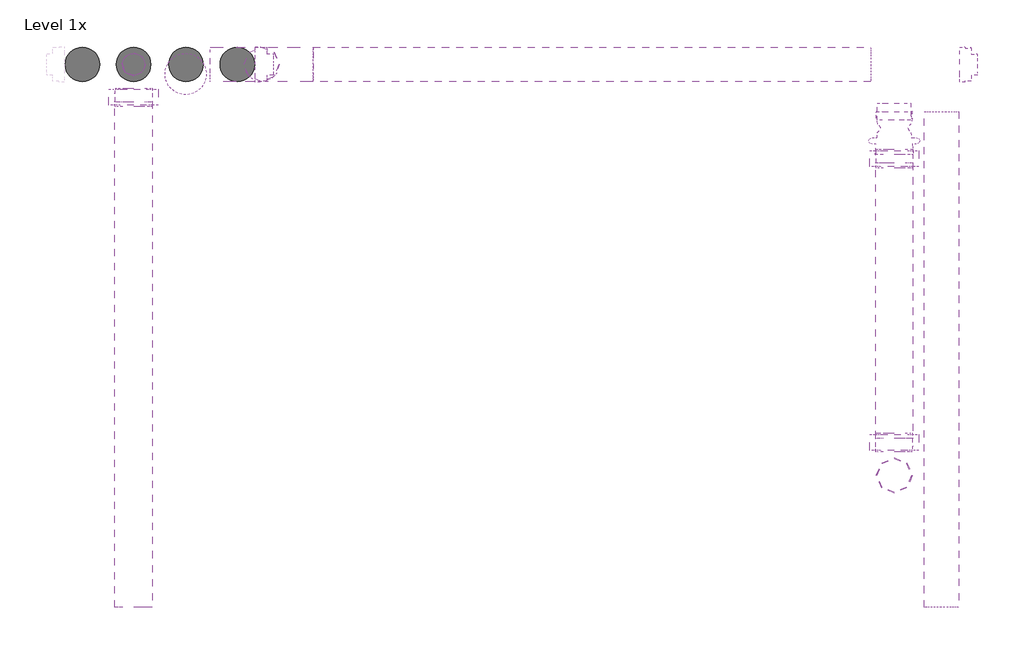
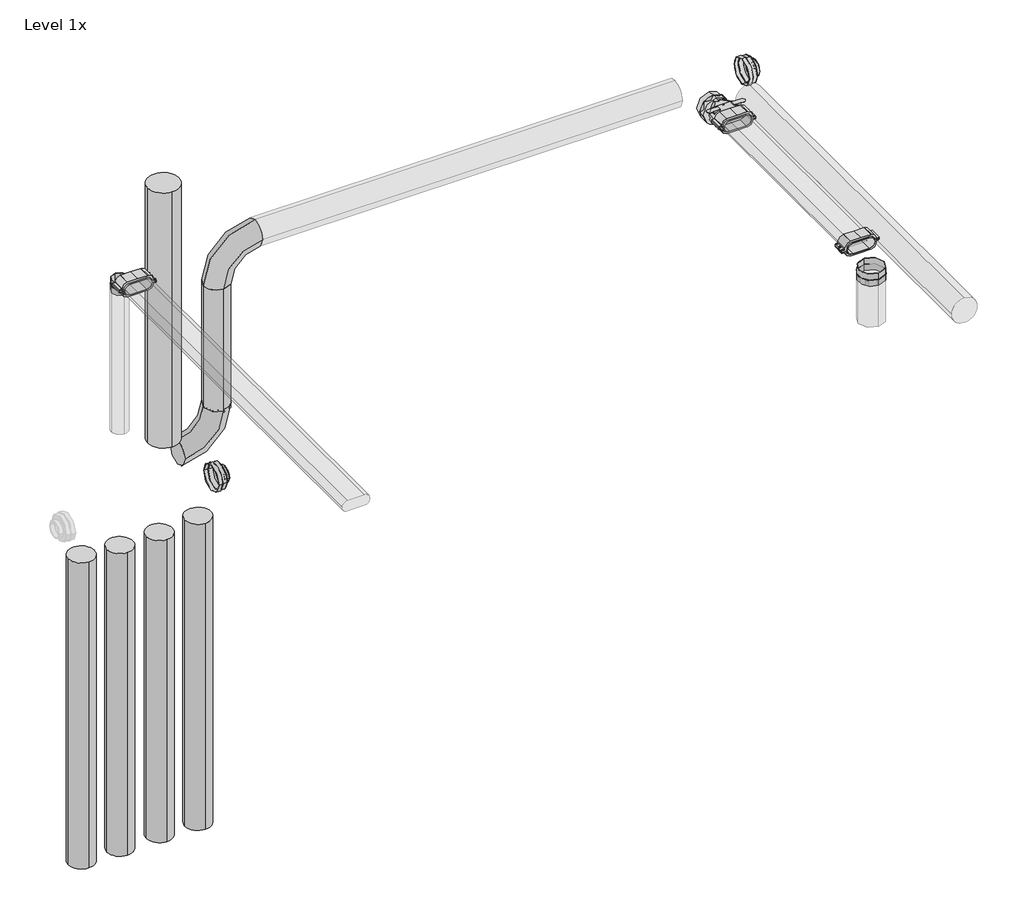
# One storey, part 2 of 7: 12 duct segments, 11 duct fittings, 6 dampers.
"""IFC4 building model written with IfcOpenShell, lengths in millimetres."""

from ifc_helpers import new_model, si_unit, point, frame, frame_2d, origin, place, context, project, spatial, polyline, circle_curve, trimmed, segment, composite_curve, outline, extrude, transform, mapped, element, save
from components import damper_135x55_quick_bracket_1c072f0f, duct_fitting_125_ba9f99c0, duct_fitting_125_ce2bcf2a, duct_fitting_135x55_flat_15a27078, duct_fitting_80_1f0880ae, duct_fitting_80_125_7c03a684, m_round_elbow_1_5_d_eb77d9a7

model = new_model("IFC4")

# Units and contexts
model_context = context("Model", 3, world=origin())
ifc_project = project(units=[si_unit("LENGTHUNIT", "METRE", prefix="MILLI")], contexts=[model_context])

# Site, building, storey
site = spatial("IfcSite", under=ifc_project)
building = spatial("IfcBuilding", under=site)
storey = spatial("IfcBuildingStorey", under=building, Name="Level 1x", Elevation=0.0)

# Dampers
placement = place(None, origin())
damper_135x55_quick_bracket_shape = damper_135x55_quick_bracket_1c072f0f(model_context)
element("IfcDamper", 1, ObjectType="Renson_Easyflex_Quick_Bracket_S : 135x55 Quick Bracket", at=placement, inside=storey, context=model_context, shape_type="MappedRepresentation", body=[
    mapped(damper_135x55_quick_bracket_shape, transform((4838.2653415, 2974.6185118, 2660.325), x_axis=(1.0, 0.0, 0.0), y_axis=(0.0, 1.0, 0.0), z_axis=(0.0, 0.0, 1.0))),
])
element("IfcDamper", 2, ObjectType="Renson_Easyflex_Quick_Bracket_S : 135x55 Quick Bracket", at=placement, inside=storey, context=model_context, shape_type="MappedRepresentation", body=[
    mapped(damper_135x55_quick_bracket_shape, transform((4838.2653415, 2974.6185118, 2599.925), x_axis=(-1.0, 0.0, 0.0), y_axis=(0.0, 1.0, 0.0), z_axis=(0.0, 0.0, -1.0))),
])
element("IfcDamper", 3, ObjectType="VE_Bracket_MEPcontent_Renson_Easyflex_Quick_BE-EN_CP Shared : 135x55 Quick Bracket", at=placement, inside=storey, context=model_context, shape_type="MappedRepresentation", body=[
    mapped(damper_135x55_quick_bracket_shape, transform((2077.9659568, 3197.2435118, 2658.45), x_axis=(1.0, 0.0, 0.0), y_axis=(0.0, 1.0, 0.0), z_axis=(0.0, 0.0, 1.0))),
])
element("IfcDamper", 4, ObjectType="VE_Bracket_MEPcontent_Renson_Easyflex_Quick_BE-EN_CP Shared : 135x55 Quick Bracket", at=placement, inside=storey, context=model_context, shape_type="MappedRepresentation", body=[
    mapped(damper_135x55_quick_bracket_shape, transform((2077.9659568, 3197.2435118, 2598.05), x_axis=(-1.0, 0.0, 0.0), y_axis=(0.0, 1.0, 0.0), z_axis=(0.0, 0.0, -1.0))),
])
element("IfcDamper", 5, ObjectType="VE_Bracket_MEPcontent_Renson_Easyflex_Quick_BE-EN_CP Shared : 135x55 Quick Bracket", at=placement, inside=storey, context=model_context, shape_type="MappedRepresentation", body=[
    mapped(damper_135x55_quick_bracket_shape, transform((4838.2653415, 1944.6185118, 2660.325), x_axis=(-1.0, 0.0, 0.0), y_axis=(0.0, -1.0, 0.0), z_axis=(0.0, 0.0, 1.0))),
])
element("IfcDamper", 6, ObjectType="VE_Bracket_MEPcontent_Renson_Easyflex_Quick_BE-EN_CP Shared : 135x55 Quick Bracket", at=placement, inside=storey, context=model_context, shape_type="MappedRepresentation", body=[
    mapped(damper_135x55_quick_bracket_shape, transform((4838.2653415, 1944.6185118, 2599.925), x_axis=(1.0, 0.0, 0.0), y_axis=(0.0, -1.0, 0.0), z_axis=(0.0, 0.0, -1.0))),
])

# Duct fittings
duct_fitting_125_shape = duct_fitting_125_ba9f99c0(model_context)
element("IfcDuctFitting", 7, ObjectType="Renson_Easyflex_Round_Coupling_S : 125", at=placement, inside=storey, context=model_context, shape_type="MappedRepresentation", body=[
    mapped(duct_fitting_125_shape, transform((4838.2653415, 3145.8685118, 2586.125), x_axis=(0.0, 1.0, 0.0), y_axis=(1.0, 0.0, 0.0), z_axis=(0.0, 0.0, -1.0))),
])
duct_fitting_125_2_shape = duct_fitting_125_ce2bcf2a(model_context)
element("IfcDuctFitting", 8, ObjectType="Renson_Easyflex_Reducer_Oval to Round : 125", at=placement, inside=storey, context=model_context, shape_type="MappedRepresentation", body=[
    mapped(duct_fitting_125_2_shape, transform((4838.2653415, 3039.6185118, 2630.125), x_axis=(0.0, 1.0, 0.0), y_axis=(1.0, 0.0, 0.0), z_axis=(0.0, 0.0, -1.0))),
])
element("IfcDuctFitting", 9, ObjectType="VE_Coupling_Round_MEPcontent_Renson_Easyflex_BE-EN_CP Shared : 125", at=placement, inside=storey, context=model_context, shape_type="MappedRepresentation", body=[
    mapped(duct_fitting_125_shape, transform((4838.2653415, 1824.6185118, 2550.125), x_axis=(0.0, 0.0, -1.000000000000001), y_axis=(-1.0000000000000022, 0.0, 0.0), z_axis=(0.0, 1.000000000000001, 0.0))),
])
duct_fitting_135x55_flat_shape = duct_fitting_135x55_flat_15a27078(model_context)
element("IfcDuctFitting", 10, ObjectType="Renson_Easyflex_Flat_Coupling_Oval_S : 135x55 Flat", at=placement, inside=storey, context=model_context, shape_type="MappedRepresentation", body=[
    mapped(duct_fitting_135x55_flat_shape, transform((4838.2653415, 2974.6185118, 2630.125), x_axis=(0.0, 1.0, 0.0), y_axis=(-1.0, 0.0, 0.0), z_axis=(0.0, 0.0, 1.0))),
])
element("IfcDuctFitting", 11, ObjectType="VE_Coupling_Oval_MEPcontent_Renson_Easyflex_Flat_BE-EN_CP Shared : 135x55 Flat", at=placement, inside=storey, context=model_context, shape_type="MappedRepresentation", body=[
    mapped(duct_fitting_135x55_flat_shape, transform((2077.9659568, 3197.2435118, 2628.25), x_axis=(0.0, 1.0, 0.0), y_axis=(-1.0, 0.0, 0.0), z_axis=(0.0, 0.0, 1.0))),
])
element("IfcDuctFitting", 12, ObjectType="VE_Coupling_Oval_MEPcontent_Renson_Easyflex_Flat_BE-EN_CP Shared : 135x55 Flat", at=placement, inside=storey, context=model_context, shape_type="MappedRepresentation", body=[
    mapped(duct_fitting_135x55_flat_shape, transform((4838.2653415, 1944.6185118, 2630.125), x_axis=(0.0, -1.0, 0.0), y_axis=(1.0, 0.0, 0.0), z_axis=(0.0, 0.0, 1.0))),
])
duct_fitting_80_shape = duct_fitting_80_1f0880ae(model_context)
element("IfcDuctFitting", 13, ObjectType="VE_Coupling_Round_MEPcontent_Renson_Easyflex_BE-EN_CP Shared : 80", at=placement, inside=storey, context=model_context, shape_type="MappedRepresentation", body=[
    mapped(duct_fitting_80_shape, transform((2077.9659568, 3317.2435118, 2548.25), x_axis=(0.0, 0.0, -1.000000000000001), y_axis=(1.0000000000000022, 0.0, 0.0), z_axis=(0.0, -1.000000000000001, 0.0))),
])
duct_fitting_80_125_shape = duct_fitting_80_125_7c03a684(model_context)
element("IfcDuctFitting", 14, ObjectType="Renson_Healthbox 3_Reducer_Round_Adapter 80-125 : 80-125", at=placement, inside=storey, context=model_context, shape_type="MappedRepresentation", body=[
    mapped(duct_fitting_80_125_shape, transform((2519.3389568, 3317.2435118, 1407.0), x_axis=(1.0000000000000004, 0.0, 0.0), y_axis=(0.0, 0.0, 1.0000000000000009), z_axis=(0.0, -1.0000000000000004, 0.0))),
])
element("IfcDuctFitting", 15, ObjectType="Renson_Healthbox 3_Reducer_Round_Adapter 80-125 : 80-125", at=placement, inside=storey, context=model_context, shape_type="MappedRepresentation", body=[
    mapped(duct_fitting_80_125_shape, transform((5075.1052515, 3317.2435118, 2583.625), x_axis=(1.0000000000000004, 0.0, 0.0), y_axis=(0.0, 1.0000000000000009, 0.0), z_axis=(0.0, 0.0, 1.0000000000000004))),
])
m_round_elbow_1_5_d_shape = m_round_elbow_1_5_d_eb77d9a7(model_context)
element("IfcDuctFitting", 16, ObjectType="M_Round Elbow : 1.5 D", at=placement, inside=storey, context=model_context, shape_type="MappedRepresentation", body=[
    mapped(m_round_elbow_1_5_d_shape, transform((2542.3592515, 3317.2435118, 2585.625), x_axis=(0.0, 0.0, 1.0), y_axis=(1.0, 0.0, 0.0), z_axis=(0.0, 1.0, 0.0))),
])
element("IfcDuctFitting", 17, ObjectType="M_Round Elbow : 1.5 D", at=placement, inside=storey, context=model_context, shape_type="MappedRepresentation", body=[
    mapped(m_round_elbow_1_5_d_shape, transform((2543.3592515, 3317.2435118, 1597.125), x_axis=(0.0, 0.0, -1.0), y_axis=(-1.0, 0.0, 0.0), z_axis=(0.0, 1.0, 0.0))),
])

# Duct segments
element("IfcDuctSegment", 18, ObjectType="Easyflex Oval", at=placement, inside=storey, context=model_context, shape_type="SweptSolid", body=[
    extrude(outline(composite_curve([segment(trimmed(circle_curve(frame_2d((2628.25, 2037.9659568)), 27.5), [point((2655.75, 2037.9659568))], [point((2628.25, 2010.4659568))], False, "CARTESIAN"), True, "CONTINUOUS"), segment(trimmed(circle_curve(frame_2d((2628.25, 2037.9659568)), 27.5), [point((2628.25, 2010.4659568))], [point((2600.75, 2037.9659568))], False, "CARTESIAN"), True, "CONTINUOUS"), segment(polyline([(2600.75, 2037.9659568), (2600.75, 2117.9659568)]), True, "CONTINUOUS"), segment(trimmed(circle_curve(frame_2d((2628.25, 2117.9659568)), 27.5), [point((2600.75, 2117.9659568))], [point((2628.25, 2145.4659568))], False, "CARTESIAN"), True, "CONTINUOUS"), segment(trimmed(circle_curve(frame_2d((2628.25, 2117.9659568)), 27.5), [point((2628.25, 2145.4659568))], [point((2655.75, 2117.9659568))], False, "CARTESIAN"), True, "CONTINUOUS"), segment(polyline([(2655.75, 2117.9659568), (2655.75, 2037.9659568)]), True, "CONTINUOUS")], self_intersect=False)), frame((0.0, 1345.6185118, 0.0), z_axis=(0.0, 1.0, 0.0), x_axis=(0.0, 0.0, 1.0)), (0.0, 0.0, 1.0), 1836.625),
])
element("IfcDuctSegment", 19, ObjectType="Easyflex Oval", at=placement, inside=storey, context=model_context, shape_type="SweptSolid", body=[
    extrude(outline(composite_curve([segment(trimmed(circle_curve(frame_2d((2630.125, 4798.2653415)), 27.5), [point((2657.625, 4798.2653415))], [point((2630.125, 4770.7653415))], False, "CARTESIAN"), True, "CONTINUOUS"), segment(trimmed(circle_curve(frame_2d((2630.125, 4798.2653415)), 27.5), [point((2630.125, 4770.7653415))], [point((2602.625, 4798.2653415))], False, "CARTESIAN"), True, "CONTINUOUS"), segment(polyline([(2602.625, 4798.2653415), (2602.625, 4878.2653415)]), True, "CONTINUOUS"), segment(trimmed(circle_curve(frame_2d((2630.125, 4878.2653415)), 27.5), [point((2602.625, 4878.2653415))], [point((2630.125, 4905.7653415))], False, "CARTESIAN"), True, "CONTINUOUS"), segment(trimmed(circle_curve(frame_2d((2630.125, 4878.2653415)), 27.5), [point((2630.125, 4905.7653415))], [point((2657.625, 4878.2653415))], False, "CARTESIAN"), True, "CONTINUOUS"), segment(polyline([(2657.625, 4878.2653415), (2657.625, 4798.2653415)]), True, "CONTINUOUS")], self_intersect=False)), frame((0.0, 1959.6185118, 0.0), z_axis=(0.0, 1.0, 0.0), x_axis=(0.0, 0.0, 1.0)), (0.0, 0.0, 1.0), 1000.0),
])
element("IfcDuctSegment", 20, ObjectType="Riser pipe", at=placement, inside=storey, context=model_context, shape_type="SweptSolid", body=[
    extrude(outline(composite_curve([segment(trimmed(circle_curve(frame_2d((2077.9659568, 3317.2435118)), 40.0), [point((2117.9659568, 3317.2435118))], [point((2077.9659568, 3277.2435118))], False, "CARTESIAN"), True, "CONTINUOUS"), segment(trimmed(circle_curve(frame_2d((2077.9659568, 3317.2435118)), 40.0), [point((2077.9659568, 3277.2435118))], [point((2037.9659568, 3317.2435118))], False, "CARTESIAN"), True, "CONTINUOUS"), segment(trimmed(circle_curve(frame_2d((2077.9659568, 3317.2435118)), 40.0), [point((2037.9659568, 3317.2435118))], [point((2077.9659568, 3357.2435118))], False, "CARTESIAN"), True, "CONTINUOUS"), segment(trimmed(circle_curve(frame_2d((2077.9659568, 3317.2435118)), 40.0), [point((2077.9659568, 3357.2435118))], [point((2117.9659568, 3317.2435118))], False, "CARTESIAN"), True, "CONTINUOUS")], self_intersect=False)), frame((0.0, 0.0, 1809.0), z_axis=(0.0, 0.0, 1.0), x_axis=(1.0, 0.0, 0.0)), (0.0, 0.0, 1.0), 738.0),
])
element("IfcDuctSegment", 21, ObjectType="Riser pipe", at=placement, inside=storey, context=model_context, shape_type="SweptSolid", body=[
    extrude(outline(composite_curve([segment(trimmed(circle_curve(frame_2d((2266.9659568, 3282.2435118)), 75.0), [point((2341.9659568, 3282.2435118))], [point((2266.9659568, 3207.2435118))], False, "CARTESIAN"), True, "CONTINUOUS"), segment(trimmed(circle_curve(frame_2d((2266.9659568, 3282.2435118)), 75.0), [point((2266.9659568, 3207.2435118))], [point((2191.9659568, 3282.2435118))], False, "CARTESIAN"), True, "CONTINUOUS"), segment(trimmed(circle_curve(frame_2d((2266.9659568, 3282.2435118)), 75.0), [point((2191.9659568, 3282.2435118))], [point((2266.9659568, 3357.2435118))], False, "CARTESIAN"), True, "CONTINUOUS"), segment(trimmed(circle_curve(frame_2d((2266.9659568, 3282.2435118)), 75.0), [point((2266.9659568, 3357.2435118))], [point((2341.9659568, 3282.2435118))], False, "CARTESIAN"), True, "CONTINUOUS")], self_intersect=False)), frame((0.0, 0.0, 1719.795), z_axis=(0.0, 0.0, 1.0), x_axis=(1.0, 0.0, 0.0)), (0.0, 0.0, 1.0), 1300.0),
])
element("IfcDuctSegment", 22, ObjectType="Riser pipe", at=placement, inside=storey, context=model_context, shape_type="SweptSolid", body=[
    extrude(outline(composite_curve([segment(trimmed(circle_curve(frame_2d((2542.3592515, 3317.2435118)), 62.5), [point((2479.8592515, 3317.2435118))], [point((2542.3592515, 3379.7435118))], False, "CARTESIAN"), True, "CONTINUOUS"), segment(trimmed(circle_curve(frame_2d((2542.3592515, 3317.2435118)), 62.5), [point((2542.3592515, 3379.7435118))], [point((2604.8592515, 3317.2435118))], False, "CARTESIAN"), True, "CONTINUOUS"), segment(trimmed(circle_curve(frame_2d((2542.3592515, 3317.2435118)), 62.5), [point((2604.8592515, 3317.2435118))], [point((2542.3592515, 3254.7435118))], False, "CARTESIAN"), True, "CONTINUOUS"), segment(trimmed(circle_curve(frame_2d((2542.3592515, 3317.2435118)), 62.5), [point((2542.3592515, 3254.7435118))], [point((2479.8592515, 3317.2435118))], False, "CARTESIAN"), True, "CONTINUOUS")], self_intersect=False)), frame((0.0, 0.0, 1768.625), z_axis=(0.0, 0.0, 1.0), x_axis=(1.0, 0.0, 0.0)), (0.0, 0.0, 1.0), 629.5),
])
element("IfcDuctSegment", 23, ObjectType="Riser pipe", at=placement, inside=storey, context=model_context, shape_type="SweptSolid", body=[
    extrude(outline(composite_curve([segment(trimmed(circle_curve(frame_2d((3317.2435118, 2585.625)), 62.5), [point((3254.7435118, 2585.625))], [point((3317.2435118, 2648.125))], False, "CARTESIAN"), True, "CONTINUOUS"), segment(trimmed(circle_curve(frame_2d((3317.2435118, 2585.625)), 62.5), [point((3317.2435118, 2648.125))], [point((3379.7435118, 2585.625))], False, "CARTESIAN"), True, "CONTINUOUS"), segment(trimmed(circle_curve(frame_2d((3317.2435118, 2585.625)), 62.5), [point((3379.7435118, 2585.625))], [point((3317.2435118, 2523.125))], False, "CARTESIAN"), True, "CONTINUOUS"), segment(trimmed(circle_curve(frame_2d((3317.2435118, 2585.625)), 62.5), [point((3317.2435118, 2523.125))], [point((3254.7435118, 2585.625))], False, "CARTESIAN"), True, "CONTINUOUS")], self_intersect=False)), frame((2729.8592515, 0.0, 0.0), z_axis=(1.0, 0.0, 0.0), x_axis=(0.0, 1.0, 0.0)), (0.0, 0.0, 1.0), 2023.5),
])
element("IfcDuctSegment", 24, ObjectType="Riser pipe", at=placement, inside=storey, context=model_context, shape_type="SweptSolid", body=[
    extrude(outline(composite_curve([segment(trimmed(circle_curve(frame_2d((1892.2159568, 3317.2435118)), 62.5), [point((1829.7159568, 3317.2435118))], [point((1892.2159568, 3379.7435118))], False, "CARTESIAN"), True, "CONTINUOUS"), segment(trimmed(circle_curve(frame_2d((1892.2159568, 3317.2435118)), 62.5), [point((1892.2159568, 3379.7435118))], [point((1954.7159568, 3317.2435118))], False, "CARTESIAN"), True, "CONTINUOUS"), segment(trimmed(circle_curve(frame_2d((1892.2159568, 3317.2435118)), 62.5), [point((1954.7159568, 3317.2435118))], [point((1892.2159568, 3254.7435118))], False, "CARTESIAN"), True, "CONTINUOUS"), segment(trimmed(circle_curve(frame_2d((1892.2159568, 3317.2435118)), 62.5), [point((1892.2159568, 3254.7435118))], [point((1829.7159568, 3317.2435118))], False, "CARTESIAN"), True, "CONTINUOUS")], self_intersect=False)), frame((0.0, 0.0, -324.625), z_axis=(0.0, 0.0, 1.0), x_axis=(1.0, 0.0, 0.0)), (0.0, 0.0, 1.0), 1560.0),
])
element("IfcDuctSegment", 25, ObjectType="Riser pipe", at=placement, inside=storey, context=model_context, shape_type="SweptSolid", body=[
    extrude(outline(composite_curve([segment(trimmed(circle_curve(frame_2d((2077.9659568, 3317.2435118)), 62.5), [point((2015.4659568, 3317.2435118))], [point((2077.9659568, 3379.7435118))], False, "CARTESIAN"), True, "CONTINUOUS"), segment(trimmed(circle_curve(frame_2d((2077.9659568, 3317.2435118)), 62.5), [point((2077.9659568, 3379.7435118))], [point((2140.4659568, 3317.2435118))], False, "CARTESIAN"), True, "CONTINUOUS"), segment(trimmed(circle_curve(frame_2d((2077.9659568, 3317.2435118)), 62.5), [point((2140.4659568, 3317.2435118))], [point((2077.9659568, 3254.7435118))], False, "CARTESIAN"), True, "CONTINUOUS"), segment(trimmed(circle_curve(frame_2d((2077.9659568, 3317.2435118)), 62.5), [point((2077.9659568, 3254.7435118))], [point((2015.4659568, 3317.2435118))], False, "CARTESIAN"), True, "CONTINUOUS")], self_intersect=False)), frame((0.0, 0.0, -324.625), z_axis=(0.0, 0.0, 1.0), x_axis=(1.0, 0.0, 0.0)), (0.0, 0.0, 1.0), 1542.625),
])
element("IfcDuctSegment", 26, ObjectType="Riser pipe", at=placement, inside=storey, context=model_context, shape_type="SweptSolid", body=[
    extrude(outline(composite_curve([segment(trimmed(circle_curve(frame_2d((2267.9659568, 3317.2435118)), 62.5), [point((2205.4659568, 3317.2435118))], [point((2267.9659568, 3379.7435118))], False, "CARTESIAN"), True, "CONTINUOUS"), segment(trimmed(circle_curve(frame_2d((2267.9659568, 3317.2435118)), 62.5), [point((2267.9659568, 3379.7435118))], [point((2330.4659568, 3317.2435118))], False, "CARTESIAN"), True, "CONTINUOUS"), segment(trimmed(circle_curve(frame_2d((2267.9659568, 3317.2435118)), 62.5), [point((2330.4659568, 3317.2435118))], [point((2267.9659568, 3254.7435118))], False, "CARTESIAN"), True, "CONTINUOUS"), segment(trimmed(circle_curve(frame_2d((2267.9659568, 3317.2435118)), 62.5), [point((2267.9659568, 3254.7435118))], [point((2205.4659568, 3317.2435118))], False, "CARTESIAN"), True, "CONTINUOUS")], self_intersect=False)), frame((0.0, 0.0, -322.0), z_axis=(0.0, 0.0, 1.0), x_axis=(1.0, 0.0, 0.0)), (0.0, 0.0, 1.0), 1540.0),
])
element("IfcDuctSegment", 27, ObjectType="Riser pipe", at=placement, inside=storey, context=model_context, shape_type="SweptSolid", body=[
    extrude(outline(composite_curve([segment(trimmed(circle_curve(frame_2d((2454.2159568, 3317.2435118)), 62.5), [point((2391.7159568, 3317.2435118))], [point((2454.2159568, 3379.7435118))], False, "CARTESIAN"), True, "CONTINUOUS"), segment(trimmed(circle_curve(frame_2d((2454.2159568, 3317.2435118)), 62.5), [point((2454.2159568, 3379.7435118))], [point((2516.7159568, 3317.2435118))], False, "CARTESIAN"), True, "CONTINUOUS"), segment(trimmed(circle_curve(frame_2d((2454.2159568, 3317.2435118)), 62.5), [point((2516.7159568, 3317.2435118))], [point((2454.2159568, 3254.7435118))], False, "CARTESIAN"), True, "CONTINUOUS"), segment(trimmed(circle_curve(frame_2d((2454.2159568, 3317.2435118)), 62.5), [point((2454.2159568, 3254.7435118))], [point((2391.7159568, 3317.2435118))], False, "CARTESIAN"), True, "CONTINUOUS")], self_intersect=False)), frame((0.0, 0.0, -324.625), z_axis=(0.0, 0.0, 1.0), x_axis=(1.0, 0.0, 0.0)), (0.0, 0.0, 1.0), 1560.0),
])
element("IfcDuctSegment", 28, ObjectType="Taps", at=placement, inside=storey, context=model_context, shape_type="SweptSolid", body=[
    extrude(outline(composite_curve([segment(trimmed(circle_curve(frame_2d((2583.625, 5009.9822515)), 62.5), [point((2583.625, 4947.4822515))], [point((2521.125, 5009.9822515))], False, "CARTESIAN"), True, "CONTINUOUS"), segment(trimmed(circle_curve(frame_2d((2583.625, 5009.9822515)), 62.5), [point((2521.125, 5009.9822515))], [point((2583.625, 5072.4822515))], False, "CARTESIAN"), True, "CONTINUOUS"), segment(trimmed(circle_curve(frame_2d((2583.625, 5009.9822515)), 62.5), [point((2583.625, 5072.4822515))], [point((2646.125, 5009.9822515))], False, "CARTESIAN"), True, "CONTINUOUS"), segment(trimmed(circle_curve(frame_2d((2583.625, 5009.9822515)), 62.5), [point((2646.125, 5009.9822515))], [point((2583.625, 4947.4822515))], False, "CARTESIAN"), True, "CONTINUOUS")], self_intersect=False)), frame((0.0, 1345.6185118, 0.0), z_axis=(0.0, 1.0, 0.0), x_axis=(0.0, 0.0, 1.0)), (0.0, 0.0, 1.0), 1800.0),
])
element("IfcDuctSegment", 29, ObjectType="Taps", at=placement, inside=storey, context=model_context, shape_type="SweptSolid", body=[
    extrude(outline(composite_curve([segment(trimmed(circle_curve(frame_2d((4838.2653415, 1824.6185118)), 62.5), [point((4900.7653415, 1824.6185118))], [point((4838.2653415, 1762.1185118))], False, "CARTESIAN"), True, "CONTINUOUS"), segment(trimmed(circle_curve(frame_2d((4838.2653415, 1824.6185118)), 62.5), [point((4838.2653415, 1762.1185118))], [point((4775.7653415, 1824.6185118))], False, "CARTESIAN"), True, "CONTINUOUS"), segment(trimmed(circle_curve(frame_2d((4838.2653415, 1824.6185118)), 62.5), [point((4775.7653415, 1824.6185118))], [point((4838.2653415, 1887.1185118))], False, "CARTESIAN"), True, "CONTINUOUS"), segment(trimmed(circle_curve(frame_2d((4838.2653415, 1824.6185118)), 62.5), [point((4838.2653415, 1887.1185118))], [point((4900.7653415, 1824.6185118))], False, "CARTESIAN"), True, "CONTINUOUS")], self_intersect=False)), frame((0.0, 0.0, 2308.875), z_axis=(0.0, 0.0, 1.0), x_axis=(1.0, 0.0, 0.0)), (0.0, 0.0, 1.0), 240.0),
])

save(model, "model.ifc")
